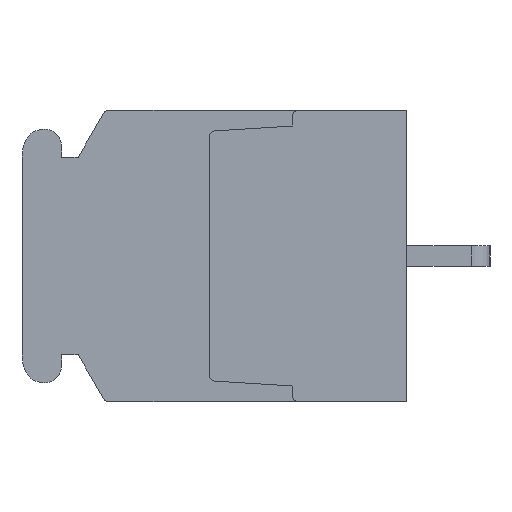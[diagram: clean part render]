
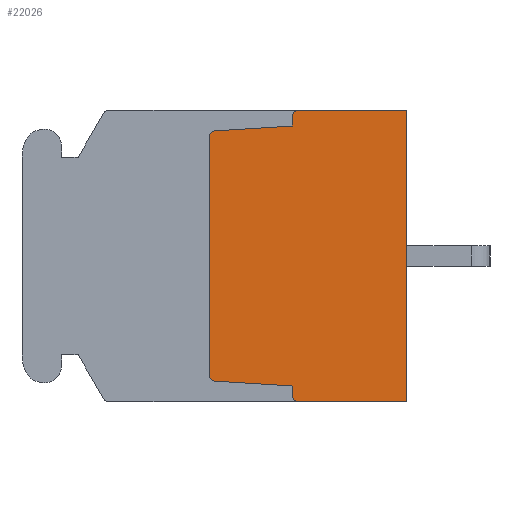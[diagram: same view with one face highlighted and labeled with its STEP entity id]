
A CAD part, left-side view. The second image highlights one B-rep face of the part: STEP entity #22026.
In plain terms, the highlighted planar face has unit normal (-1, 0, 0).
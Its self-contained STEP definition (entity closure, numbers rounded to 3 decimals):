
#1055=CIRCLE('',#23672,0.3);
#1056=CIRCLE('',#23673,0.3);
#1057=CIRCLE('',#23674,0.3);
#1058=CIRCLE('',#23675,0.3);
#1915=VERTEX_POINT('',#30691);
#1918=VERTEX_POINT('',#30696);
#1935=VERTEX_POINT('',#30736);
#1980=VERTEX_POINT('',#30866);
#3097=VERTEX_POINT('',#34893);
#3098=VERTEX_POINT('',#34894);
#3099=VERTEX_POINT('',#34896);
#3100=VERTEX_POINT('',#34898);
#3101=VERTEX_POINT('',#34900);
#3102=VERTEX_POINT('',#34902);
#3103=VERTEX_POINT('',#34905);
#3104=VERTEX_POINT('',#34907);
#4161=VECTOR('',#25388,1.);
#4183=VECTOR('',#25411,1.);
#4233=VECTOR('',#25519,1.);
#5501=VECTOR('',#28030,1.);
#5502=VECTOR('',#28033,1.);
#5503=VECTOR('',#28034,1.);
#5504=VECTOR('',#28039,1.);
#5505=VECTOR('',#28040,1.);
#6608=LINE('',#30697,#4161);
#6630=LINE('',#30737,#4183);
#6680=LINE('',#30865,#4233);
#7948=LINE('',#34895,#5501);
#7949=LINE('',#34899,#5502);
#7950=LINE('',#34901,#5503);
#7951=LINE('',#34906,#5504);
#7952=LINE('',#34908,#5505);
#9338=EDGE_CURVE('',#1918,#1915,#6608,.T.);
#9360=EDGE_CURVE('',#1935,#1918,#6630,.T.);
#9426=EDGE_CURVE('',#1915,#1980,#6680,.T.);
#11164=EDGE_CURVE('',#3097,#3098,#1055,.T.);
#11165=EDGE_CURVE('',#3099,#3097,#7948,.T.);
#11166=EDGE_CURVE('',#3100,#3099,#1056,.T.);
#11167=EDGE_CURVE('',#3101,#3100,#7949,.T.);
#11168=EDGE_CURVE('',#3102,#3101,#7950,.T.);
#11169=EDGE_CURVE('',#1980,#3102,#1057,.T.);
#11170=EDGE_CURVE('',#3103,#1935,#1058,.T.);
#11171=EDGE_CURVE('',#3104,#3103,#7951,.T.);
#11172=EDGE_CURVE('',#3098,#3104,#7952,.T.);
#17313=ORIENTED_EDGE('',*,*,#11164,.F.);
#17314=ORIENTED_EDGE('',*,*,#11165,.F.);
#17315=ORIENTED_EDGE('',*,*,#11166,.F.);
#17316=ORIENTED_EDGE('',*,*,#11167,.F.);
#17317=ORIENTED_EDGE('',*,*,#11168,.F.);
#17318=ORIENTED_EDGE('',*,*,#11169,.F.);
#17319=ORIENTED_EDGE('',*,*,#9426,.F.);
#17320=ORIENTED_EDGE('',*,*,#9338,.F.);
#17321=ORIENTED_EDGE('',*,*,#9360,.F.);
#17322=ORIENTED_EDGE('',*,*,#11170,.F.);
#17323=ORIENTED_EDGE('',*,*,#11171,.F.);
#17324=ORIENTED_EDGE('',*,*,#11172,.F.);
#19456=EDGE_LOOP('',(#17313,#17314,#17315,#17316,#17317,#17318,#17319,#17320,
#17321,#17322,#17323,#17324));
#20786=FACE_BOUND('',#19456,.T.);
#22026=ADVANCED_FACE('',(#20786),#37151,.F.);
#23671=AXIS2_PLACEMENT_3D('',#34891,#28027,$);
#23672=AXIS2_PLACEMENT_3D('',#34892,#28028,#28029);
#23673=AXIS2_PLACEMENT_3D('',#34897,#28031,#28032);
#23674=AXIS2_PLACEMENT_3D('',#34903,#28035,#28036);
#23675=AXIS2_PLACEMENT_3D('',#34904,#28037,#28038);
#25388=DIRECTION('',(0.,0.,-1.));
#25411=DIRECTION('',(0.,-1.,0.));
#25519=DIRECTION('',(0.,1.,0.));
#28027=DIRECTION('',(1.,0.,0.));
#28028=DIRECTION('',(1.,0.,0.));
#28029=DIRECTION('',(0.,0.,-0.3));
#28030=DIRECTION('',(0.,0.,1.));
#28031=DIRECTION('',(1.,0.,0.));
#28032=DIRECTION('',(0.,0.,-0.3));
#28033=DIRECTION('',(0.,0.998,0.062));
#28034=DIRECTION('',(0.,0.,1.));
#28035=DIRECTION('',(1.,0.,0.));
#28036=DIRECTION('',(0.,0.,-0.3));
#28037=DIRECTION('',(1.,0.,0.));
#28038=DIRECTION('',(0.,0.,-0.3));
#28039=DIRECTION('',(0.,0.,1.));
#28040=DIRECTION('',(0.,-0.998,0.062));
#30691=CARTESIAN_POINT('',(0.,0.,-7.));
#30696=CARTESIAN_POINT('',(0.,0.,7.));
#30697=CARTESIAN_POINT('',(0.,0.,7.));
#30736=CARTESIAN_POINT('',(0.,5.2,7.));
#30737=CARTESIAN_POINT('',(0.,5.2,7.));
#30865=CARTESIAN_POINT('',(0.,0.,-7.));
#30866=CARTESIAN_POINT('',(0.,5.2,-7.));
#34891=CARTESIAN_POINT('',(0.,4.541,0.));
#34892=CARTESIAN_POINT('',(0.,9.2,5.718));
#34893=CARTESIAN_POINT('',(0.,9.5,5.718));
#34894=CARTESIAN_POINT('',(0.,9.219,6.018));
#34895=CARTESIAN_POINT('',(0.,9.5,-5.718));
#34896=CARTESIAN_POINT('',(0.,9.5,-5.718));
#34897=CARTESIAN_POINT('',(0.,9.2,-5.718));
#34898=CARTESIAN_POINT('',(0.,9.219,-6.018));
#34899=CARTESIAN_POINT('',(0.,5.5,-6.25));
#34900=CARTESIAN_POINT('',(0.,5.5,-6.25));
#34901=CARTESIAN_POINT('',(0.,5.5,-6.7));
#34902=CARTESIAN_POINT('',(0.,5.5,-6.7));
#34903=CARTESIAN_POINT('',(0.,5.2,-6.7));
#34904=CARTESIAN_POINT('',(0.,5.2,6.7));
#34905=CARTESIAN_POINT('',(0.,5.5,6.7));
#34906=CARTESIAN_POINT('',(0.,5.5,6.25));
#34907=CARTESIAN_POINT('',(0.,5.5,6.25));
#34908=CARTESIAN_POINT('',(0.,9.219,6.018));
#37151=PLANE('',#23671);
